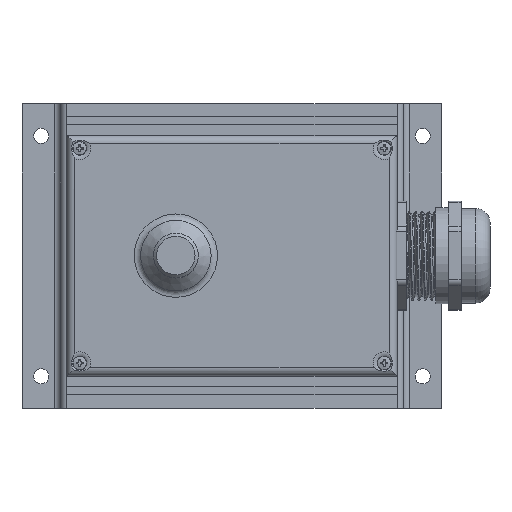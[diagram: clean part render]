
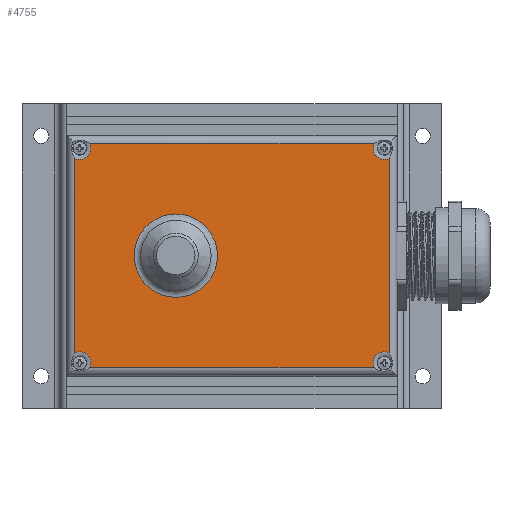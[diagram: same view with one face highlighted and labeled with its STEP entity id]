
A CAD part, top view. The second image highlights one B-rep face of the part: STEP entity #4755.
In plain terms, the highlighted planar face has unit normal (0, 0, 1).
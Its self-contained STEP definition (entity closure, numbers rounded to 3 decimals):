
#109=FACE_BOUND('',#779,.T.);
#262=PLANE('',#5178);
#506=FACE_OUTER_BOUND('',#778,.T.);
#778=EDGE_LOOP('',(#4393,#4394,#4395,#4396,#4397,#4398,#4399,#4400,#4401,
#4402));
#779=EDGE_LOOP('',(#4403));
#916=CIRCLE('',#5156,3.5);
#919=CIRCLE('',#5159,3.5);
#920=CIRCLE('',#5161,3.5);
#923=CIRCLE('',#5164,3.5);
#926=CIRCLE('',#5168,3.5);
#927=CIRCLE('',#5170,3.5);
#930=CIRCLE('',#5174,13.);
#1449=LINE('',#10370,#1924);
#1451=LINE('',#10408,#1926);
#1453=LINE('',#10444,#1928);
#1456=LINE('',#10501,#1931);
#1924=VECTOR('',#6353,10.);
#1926=VECTOR('',#6361,10.);
#1928=VECTOR('',#6367,10.);
#1931=VECTOR('',#6374,10.);
#2352=VERTEX_POINT('',#10354);
#2353=VERTEX_POINT('',#10369);
#2357=VERTEX_POINT('',#10392);
#2358=VERTEX_POINT('',#10407);
#2361=VERTEX_POINT('',#10428);
#2362=VERTEX_POINT('',#10443);
#2365=VERTEX_POINT('',#10464);
#2368=VERTEX_POINT('',#10490);
#2373=VERTEX_POINT('',#10515);
#2375=VERTEX_POINT('',#10522);
#2379=VERTEX_POINT('',#10539);
#3015=EDGE_CURVE('',#2352,#2353,#1449,.T.);
#3021=EDGE_CURVE('',#2357,#2358,#1451,.T.);
#3026=EDGE_CURVE('',#2361,#2362,#1453,.T.);
#3035=EDGE_CURVE('',#2368,#2365,#1456,.T.);
#3042=EDGE_CURVE('',#2353,#2373,#916,.T.);
#3045=EDGE_CURVE('',#2373,#2357,#919,.T.);
#3046=EDGE_CURVE('',#2358,#2375,#920,.T.);
#3049=EDGE_CURVE('',#2375,#2361,#923,.T.);
#3052=EDGE_CURVE('',#2365,#2352,#926,.T.);
#3053=EDGE_CURVE('',#2362,#2368,#927,.T.);
#3056=EDGE_CURVE('',#2379,#2379,#930,.T.);
#4393=ORIENTED_EDGE('',*,*,#3021,.F.);
#4394=ORIENTED_EDGE('',*,*,#3045,.F.);
#4395=ORIENTED_EDGE('',*,*,#3042,.F.);
#4396=ORIENTED_EDGE('',*,*,#3015,.F.);
#4397=ORIENTED_EDGE('',*,*,#3052,.F.);
#4398=ORIENTED_EDGE('',*,*,#3035,.F.);
#4399=ORIENTED_EDGE('',*,*,#3053,.F.);
#4400=ORIENTED_EDGE('',*,*,#3026,.F.);
#4401=ORIENTED_EDGE('',*,*,#3049,.F.);
#4402=ORIENTED_EDGE('',*,*,#3046,.F.);
#4403=ORIENTED_EDGE('',*,*,#3056,.F.);
#4755=ADVANCED_FACE('',(#506,#109),#262,.T.);
#5156=AXIS2_PLACEMENT_3D('',#10516,#6388,#6389);
#5159=AXIS2_PLACEMENT_3D('',#10520,#6394,#6395);
#5161=AXIS2_PLACEMENT_3D('',#10523,#6398,#6399);
#5164=AXIS2_PLACEMENT_3D('',#10527,#6404,#6405);
#5168=AXIS2_PLACEMENT_3D('',#10532,#6412,#6413);
#5170=AXIS2_PLACEMENT_3D('',#10534,#6416,#6417);
#5174=AXIS2_PLACEMENT_3D('',#10540,#6424,#6425);
#5178=AXIS2_PLACEMENT_3D('',#10546,#6432,#6433);
#6353=DIRECTION('',(-1.,0.,0.));
#6361=DIRECTION('',(0.,1.,0.));
#6367=DIRECTION('',(1.,0.,0.));
#6374=DIRECTION('',(0.,-1.,0.));
#6388=DIRECTION('center_axis',(0.,0.,1.));
#6389=DIRECTION('ref_axis',(-1.,0.,0.));
#6394=DIRECTION('center_axis',(0.,0.,1.));
#6395=DIRECTION('ref_axis',(-1.,0.,0.));
#6398=DIRECTION('center_axis',(0.,0.,1.));
#6399=DIRECTION('ref_axis',(-1.,0.,0.));
#6404=DIRECTION('center_axis',(0.,0.,1.));
#6405=DIRECTION('ref_axis',(-1.,0.,0.));
#6412=DIRECTION('center_axis',(0.,0.,1.));
#6413=DIRECTION('ref_axis',(-1.,0.,0.));
#6416=DIRECTION('center_axis',(0.,0.,1.));
#6417=DIRECTION('ref_axis',(-1.,0.,0.));
#6424=DIRECTION('center_axis',(0.,0.,1.));
#6425=DIRECTION('ref_axis',(1.,0.,0.));
#6432=DIRECTION('center_axis',(0.,0.,1.));
#6433=DIRECTION('ref_axis',(1.,0.,0.));
#10354=CARTESIAN_POINT('',(44.338,-35.,87.));
#10369=CARTESIAN_POINT('',(-44.338,-35.,87.));
#10370=CARTESIAN_POINT('',(-25.75,-35.,87.));
#10392=CARTESIAN_POINT('',(-49.,-30.338,87.));
#10407=CARTESIAN_POINT('',(-49.,30.338,87.));
#10408=CARTESIAN_POINT('',(-49.,18.75,87.));
#10428=CARTESIAN_POINT('',(-44.338,35.,87.));
#10443=CARTESIAN_POINT('',(44.338,35.,87.));
#10444=CARTESIAN_POINT('',(25.75,35.,87.));
#10464=CARTESIAN_POINT('',(49.,-30.338,87.));
#10490=CARTESIAN_POINT('',(49.,30.338,87.));
#10501=CARTESIAN_POINT('',(49.,-18.75,87.));
#10515=CARTESIAN_POINT('',(-44.,-33.5,87.));
#10516=CARTESIAN_POINT('Origin',(-47.5,-33.5,87.));
#10520=CARTESIAN_POINT('Origin',(-47.5,-33.5,87.));
#10522=CARTESIAN_POINT('',(-44.,33.5,87.));
#10523=CARTESIAN_POINT('Origin',(-47.5,33.5,87.));
#10527=CARTESIAN_POINT('Origin',(-47.5,33.5,87.));
#10532=CARTESIAN_POINT('Origin',(47.5,-33.5,87.));
#10534=CARTESIAN_POINT('Origin',(47.5,33.5,87.));
#10539=CARTESIAN_POINT('',(-30.5,0.,87.));
#10540=CARTESIAN_POINT('Origin',(-17.5,0.,87.));
#10546=CARTESIAN_POINT('Origin',(0.,0.,87.));
